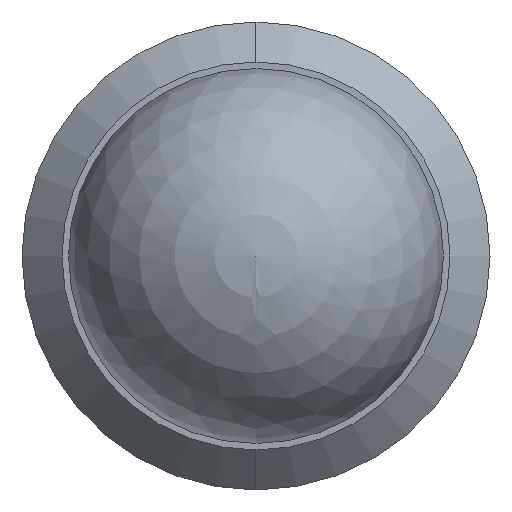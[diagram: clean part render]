
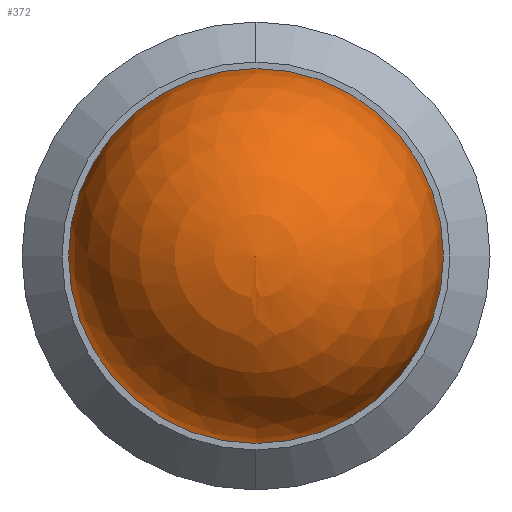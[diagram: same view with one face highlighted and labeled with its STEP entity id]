
A CAD part, left-side view. The second image highlights one B-rep face of the part: STEP entity #372.
In plain terms, the highlighted spherical face has radius 1.191 mm.
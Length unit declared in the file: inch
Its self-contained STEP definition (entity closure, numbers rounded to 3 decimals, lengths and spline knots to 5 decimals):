
#41 = VERTEX_POINT ( 'NONE', #362 ) ;
#42 = CIRCLE ( 'NONE', #93, 0.04688 ) ;
#86 = EDGE_CURVE ( 'NONE', #41, #150, #506, .T. ) ;
#93 = AXIS2_PLACEMENT_3D ( 'NONE', #214, #213, #212 ) ;
#111 = DIRECTION ( 'NONE',  ( 1., 0., 0. ) ) ;
#128 = CARTESIAN_POINT ( 'NONE',  ( 0., 0., 0. ) ) ;
#139 = SPHERICAL_SURFACE ( 'NONE', #169, 0.04688 ) ;
#150 = VERTEX_POINT ( 'NONE', #163 ) ;
#163 = CARTESIAN_POINT ( 'NONE',  ( 0., -0.04688, 0. ) ) ;
#169 = AXIS2_PLACEMENT_3D ( 'NONE', #417, #423, #413 ) ;
#212 = DIRECTION ( 'NONE',  ( 0., 0., 1. ) ) ;
#213 = DIRECTION ( 'NONE',  ( -1., 0., 0. ) ) ;
#214 = CARTESIAN_POINT ( 'NONE',  ( 0., 0., 0. ) ) ;
#294 = AXIS2_PLACEMENT_3D ( 'NONE', #128, #111, #591 ) ;
#362 = CARTESIAN_POINT ( 'NONE',  ( 0., 0.04688, 0. ) ) ;
#372 = ADVANCED_FACE ( 'NONE', ( #516 ), #139, .T. ) ;
#413 = DIRECTION ( 'NONE',  ( 0., 0., -1. ) ) ;
#417 = CARTESIAN_POINT ( 'NONE',  ( 0., 0., 0. ) ) ;
#421 = EDGE_LOOP ( 'NONE', ( #550, #437 ) ) ;
#423 = DIRECTION ( 'NONE',  ( 1., 0., 0. ) ) ;
#437 = ORIENTED_EDGE ( 'NONE', *, *, #508, .T. ) ;
#506 = CIRCLE ( 'NONE', #294, 0.04688 ) ;
#508 = EDGE_CURVE ( 'NONE', #41, #150, #42, .T. ) ;
#516 = FACE_OUTER_BOUND ( 'NONE', #421, .T. ) ;
#550 = ORIENTED_EDGE ( 'NONE', *, *, #86, .F. ) ;
#591 = DIRECTION ( 'NONE',  ( 0., 0., -1. ) ) ;
